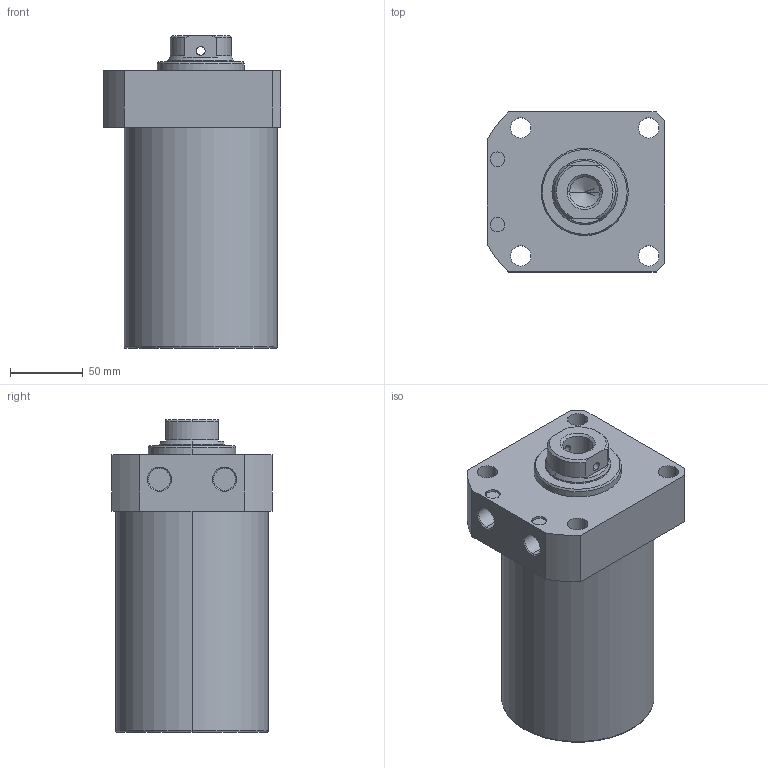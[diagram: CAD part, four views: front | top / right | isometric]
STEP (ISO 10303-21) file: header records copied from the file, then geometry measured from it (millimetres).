
FILE_DESCRIPTION (( 'STEP AP203' ), '1' );
FILE_NAME ('CLLR-105CB-105.STEP', '2019-12-18T07:29:29', ( '' ), ( '' ), 'SwSTEP 2.0', 'SolidWorks 2015', '' );
FILE_SCHEMA (( 'CONFIG_CONTROL_DESIGN' ));
Length unit declared in the file: millimetre
Products named in the file (1): CLLR-105CB-105
Bounding box: 122 x 110 x 215 mm (x, y, z)
Volume: 1812898.5 mm3; surface area: 108902.3 mm2
Topology: 1 solids, 1 shells, 69 faces, 165 edges, 104 vertices
Faces by surface type: cylinder 33, plane 19, cone 15, torus 2
Entity records: 2227 total; most frequent: CARTESIAN_POINT 481, DIRECTION 372, ORIENTED_EDGE 326, EDGE_CURVE 163, AXIS2_PLACEMENT_3D 151, VERTEX_POINT 104, EDGE_LOOP 89, CIRCLE 81
